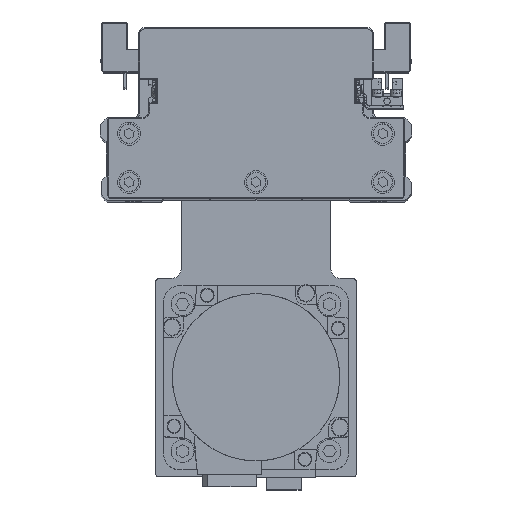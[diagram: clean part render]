
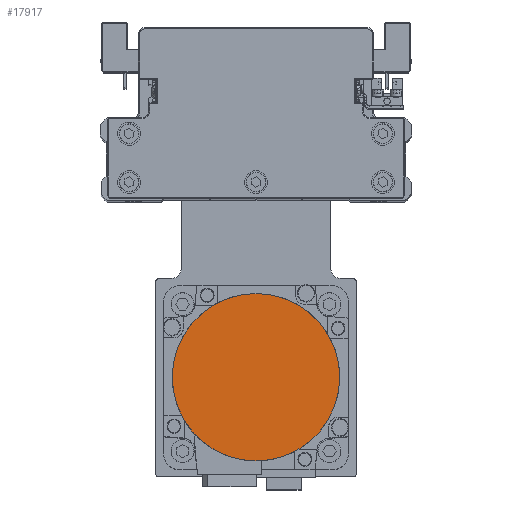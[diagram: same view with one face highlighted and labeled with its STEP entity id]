
A CAD part, top view. The second image highlights one B-rep face of the part: STEP entity #17917.
In plain terms, the highlighted planar face has unit normal (0, 0, 1) as drawn and (0, 0, -1) by its records, which use the part's own axes.
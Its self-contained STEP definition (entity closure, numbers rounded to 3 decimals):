
#1481 = AXIS2_PLACEMENT_3D ( 'NONE', #34075, #6778, #18966 ) ;
#1813 = DIRECTION ( 'NONE',  ( 0., 1., 0. ) ) ;
#6775 = CARTESIAN_POINT ( 'NONE',  ( 0., 36.3, -122.2 ) ) ;
#6778 = DIRECTION ( 'NONE',  ( 0., 0., 1. ) ) ;
#7328 = DIRECTION ( 'NONE',  ( 1., 0., 0. ) ) ;
#7760 = EDGE_LOOP ( 'NONE', ( #12082, #15072 ) ) ;
#10339 = PLANE ( 'NONE',  #19563 ) ;
#11176 = VERTEX_POINT ( 'NONE', #6775 ) ;
#12082 = ORIENTED_EDGE ( 'NONE', *, *, #15844, .F. ) ;
#12494 = EDGE_CURVE ( 'NONE', #38255, #11176, #18712, .T. ) ;
#15072 = ORIENTED_EDGE ( 'NONE', *, *, #12494, .F. ) ;
#15844 = EDGE_CURVE ( 'NONE', #11176, #38255, #38474, .T. ) ;
#16992 = CARTESIAN_POINT ( 'NONE',  ( 0., 0., -122.2 ) ) ;
#17917 = ADVANCED_FACE ( 'NONE', ( #37606 ), #10339, .F. ) ;
#18712 = CIRCLE ( 'NONE', #1481, 36.3 ) ;
#18966 = DIRECTION ( 'NONE',  ( 0., -1., 0. ) ) ;
#19563 = AXIS2_PLACEMENT_3D ( 'NONE', #22482, #34623, #7328 ) ;
#21320 = AXIS2_PLACEMENT_3D ( 'NONE', #16992, #29118, #1813 ) ;
#22482 = CARTESIAN_POINT ( 'NONE',  ( 0., 0., -122.2 ) ) ;
#26441 = CARTESIAN_POINT ( 'NONE',  ( 0., -36.3, -122.2 ) ) ;
#29118 = DIRECTION ( 'NONE',  ( 0., 0., 1. ) ) ;
#34075 = CARTESIAN_POINT ( 'NONE',  ( 0., 0., -122.2 ) ) ;
#34623 = DIRECTION ( 'NONE',  ( 0., 0., 1. ) ) ;
#37606 = FACE_OUTER_BOUND ( 'NONE', #7760, .T. ) ;
#38255 = VERTEX_POINT ( 'NONE', #26441 ) ;
#38474 = CIRCLE ( 'NONE', #21320, 36.3 ) ;
